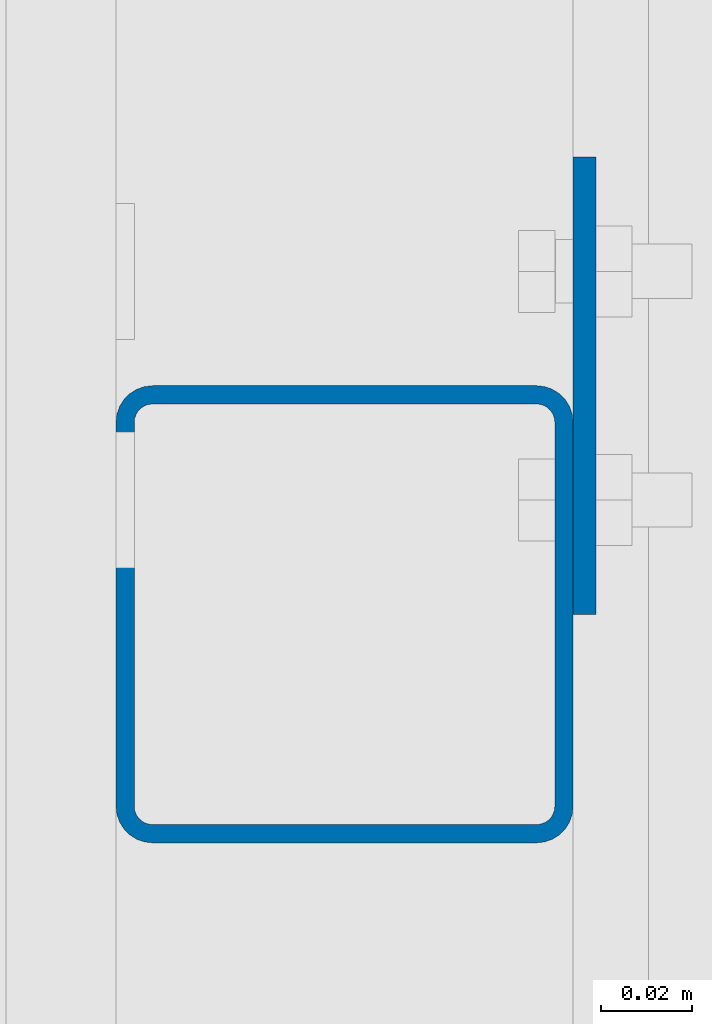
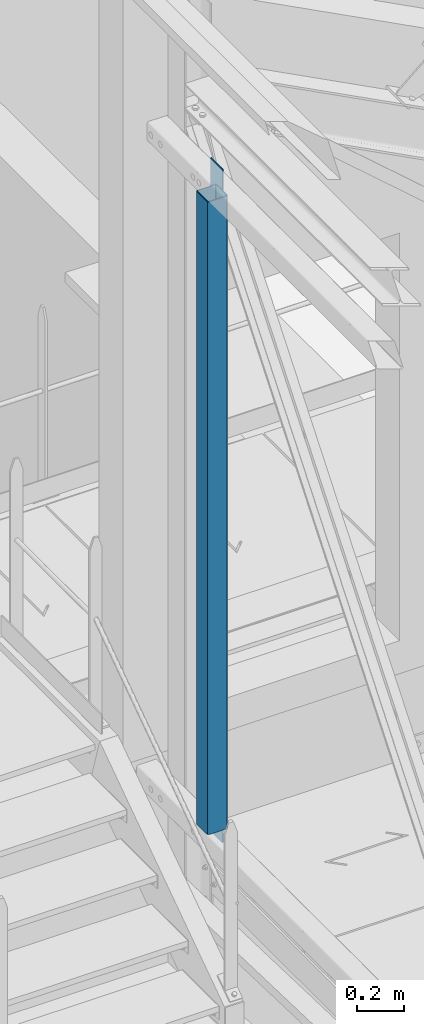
# One storey, part 7 of 362: 2 columns, 1 element without a shape of its own.
"""IFC2X3 building model written with IfcOpenShell, lengths in millimetres."""

from ifc_helpers import new_model, si_unit, frame, origin_with_axes, origin_2d_with_axis, place, context, subcontext, project, spatial, rectangle, hollow_rectangle, extrude, material, type_object, element, aggregate, save


model = new_model("IFC2X3")

# Units and contexts
model_context = context("Model", 3, precision=1e-05, world=origin_with_axes())
body_context = subcontext(model_context, "Body", "Model", "MODEL_VIEW")
ifc_project = project(units=[si_unit("LENGTHUNIT", "METRE", prefix="MILLI"), si_unit("AREAUNIT", "SQUARE_METRE"), si_unit("VOLUMEUNIT", "CUBIC_METRE"), si_unit("MASSUNIT", "GRAM", prefix="KILO"), si_unit("TIMEUNIT", "SECOND"), si_unit("PLANEANGLEUNIT", "RADIAN"), si_unit("SOLIDANGLEUNIT", "STERADIAN"), si_unit("THERMODYNAMICTEMPERATUREUNIT", "DEGREE_CELSIUS"), si_unit("LUMINOUSINTENSITYUNIT", "LUMEN")], contexts=[model_context])

# Site, building, storey
site_placement = place(None, origin_with_axes())
site = spatial("IfcSite", under=ifc_project, at=site_placement, Name="Undefined", CompositionType="ELEMENT")
building_placement = place(site_placement, origin_with_axes())
building = spatial("IfcBuilding", under=site, at=building_placement, Name="Undefined", CompositionType="ELEMENT")
storey_placement = place(building_placement, origin_with_axes())
storey = spatial("IfcBuildingStorey", under=building, at=storey_placement, Name="Undefined", CompositionType="ELEMENT", Elevation=0.0)

# Assembly, columns
assembly_placement = place(storey_placement, origin_with_axes())
assembly = element("IfcElementAssembly", 1, at=assembly_placement, inside=storey, Name="MONTANT", AssemblyPlace="NOTDEFINED", PredefinedType="NOTDEFINED")
ifc_material = material(Name="Undefined/S235-E24")
column_type_1 = type_object("IfcColumnType", Name="TUBE-C-100*100*4", PredefinedType="NOTDEFINED")
column_1_placement = place(assembly_placement, frame((12563.5000106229, 14809.9999987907, 8555.00000000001), z_axis=(0.0, 0.0, 1.0), x_axis=(0.0, 1.0, 0.0)))
column_1 = element("IfcColumn", 2, at=column_1_placement, type_object=column_type_1, material=ifc_material, Name="MONTANT", ObjectType="TUBE-C-100*100*4", context=body_context, shape_type="SweptSolid", body=[
    extrude(hollow_rectangle(XDim=100.0, YDim=100.0, WallThickness=4.0, InnerFilletRadius=4.0, OuterFilletRadius=8.0, at=origin_2d_with_axis()), frame((0.0, 0.0, 3260.0), z_axis=(0.0, 0.0, -1.0), x_axis=(0.0, 1.0, 0.0)), (0.0, 0.0, 1.0), 3260.0),
])
column_type_2 = type_object("IfcColumnType", Name="PL100*5", PredefinedType="NOTDEFINED")
column_2_placement = place(assembly_placement, frame((12616.0000013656, 14859.9999987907, 8450.0), z_axis=(0.0, 0.0, 1.0), x_axis=(0.0, 1.0, 0.0)))
column_2 = element("IfcColumn", 3, at=column_2_placement, type_object=column_type_2, material=ifc_material, Name="FEUILLURE", ObjectType="PL100*5", context=body_context, shape_type="SweptSolid", body=[
    extrude(rectangle(XDim=5.0, YDim=100.0, at=origin_2d_with_axis()), frame((0.0, 0.0, 3470.0), z_axis=(0.0, 0.0, -1.0), x_axis=(0.0, 1.0, 0.0)), (0.0, 0.0, 1.0), 3470.0),
])
aggregate(assembly, [column_2, column_1])

save(model, "model.ifc")
